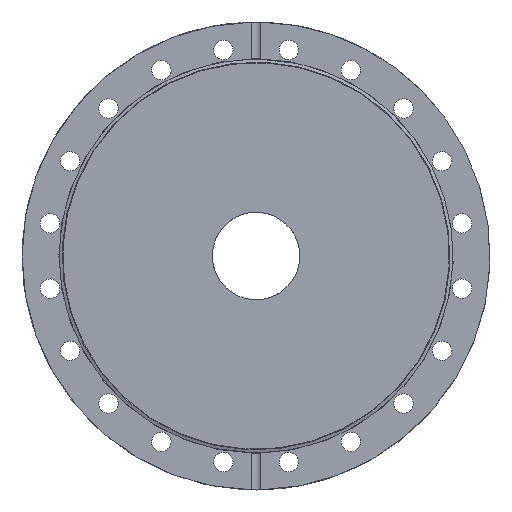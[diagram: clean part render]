
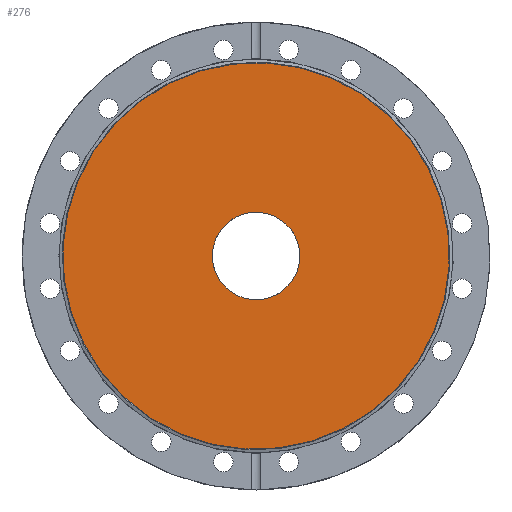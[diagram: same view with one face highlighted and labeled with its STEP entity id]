
A CAD part, left-side view. The second image highlights one B-rep face of the part: STEP entity #276.
In plain terms, the highlighted planar face has unit normal (-1, 0, 0).
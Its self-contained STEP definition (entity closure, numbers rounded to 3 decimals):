
#276 = ADVANCED_FACE( '', ( #568, #569 ), #570, .F. );
#568 = FACE_OUTER_BOUND( '', #931, .T. );
#569 = FACE_BOUND( '', #932, .T. );
#570 = PLANE( '', #933 );
#931 = EDGE_LOOP( '', ( #1247 ) );
#932 = EDGE_LOOP( '', ( #1248 ) );
#933 = AXIS2_PLACEMENT_3D( '', #1249, #1250, #1251 );
#1247 = ORIENTED_EDGE( '', *, *, #1655, .T. );
#1248 = ORIENTED_EDGE( '', *, *, #1656, .F. );
#1249 = CARTESIAN_POINT( '', ( -21., 0., 83.835 ) );
#1250 = DIRECTION( '', ( 1., 0., 0. ) );
#1251 = DIRECTION( '', ( 0., 1., 0. ) );
#1655 = EDGE_CURVE( '', #1864, #1864, #1865, .T. );
#1656 = EDGE_CURVE( '', #1866, #1866, #1867, .T. );
#1864 = VERTEX_POINT( '', #2118 );
#1865 = CIRCLE( '', #2119, 83.835 );
#1866 = VERTEX_POINT( '', #2120 );
#1867 = CIRCLE( '', #2121, 19. );
#2118 = CARTESIAN_POINT( '', ( -21., 0., 83.835 ) );
#2119 = AXIS2_PLACEMENT_3D( '', #2537, #2538, #2539 );
#2120 = CARTESIAN_POINT( '', ( -21., 0., 19. ) );
#2121 = AXIS2_PLACEMENT_3D( '', #2540, #2541, #2542 );
#2537 = CARTESIAN_POINT( '', ( -21., 0., 0. ) );
#2538 = DIRECTION( '', ( -1., 0., 0. ) );
#2539 = DIRECTION( '', ( 0., 0., 1. ) );
#2540 = CARTESIAN_POINT( '', ( -21., 0., 0. ) );
#2541 = DIRECTION( '', ( -1., 0., 0. ) );
#2542 = DIRECTION( '', ( 0., 0., 1. ) );
